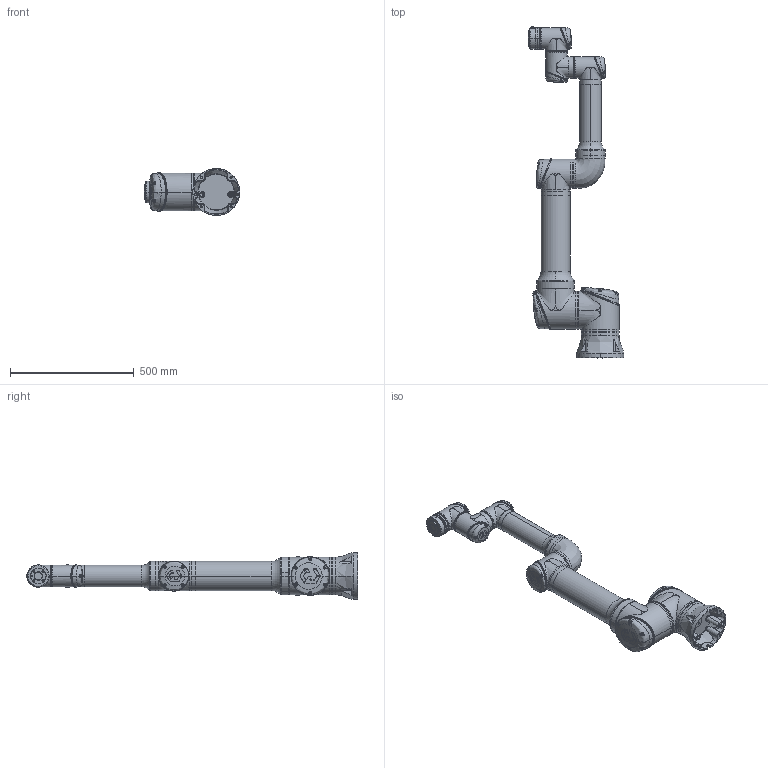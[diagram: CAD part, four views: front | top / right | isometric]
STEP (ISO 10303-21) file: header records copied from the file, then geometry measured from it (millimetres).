
FILE_DESCRIPTION (( 'STEP AP203' ), '1' );
FILE_NAME ('ES_掛极ES616_V1.1.STEP', '2025-07-03T05:39:38', ( '' ), ( '' ), 'SwSTEP 2.0', 'SolidWorks 2017', '' );
FILE_SCHEMA (( 'CONFIG_CONTROL_DESIGN' ));
Length unit declared in the file: millimetre
Products named in the file (8): ES616-Base; ES616-Flange; ES616-Link5; ES616-Link2; ES616-Link3; ES_掛极ES616_V1.1; ES616-Link4; ES616-Link1
Assembly tree (7 placements, depth 2):
  ES_掛极ES616_V1.1
    ES616-Base
    ES616-Link1
    ES616-Link2
    ES616-Link3
    ES616-Link4
    ES616-Link5
    ES616-Flange
Bounding box: 385.68 x 1342.7 x 189.7 mm (x, y, z)
Volume: 20512085.2 mm3; surface area: 1360030.7 mm2
Topology: 80 solids, 101 shells, 5398 faces, 12787 edges, 7591 vertices
Faces by surface type: bspline 2059, plane 1382, cylinder 1045, cone 385, torus 322, sphere 205
Entity records: 439560 total; most frequent: CARTESIAN_POINT 332256, ORIENTED_EDGE 25018, DIRECTION 18377, EDGE_CURVE 12511, AXIS2_PLACEMENT_3D 7773, VERTEX_POINT 7545, EDGE_LOOP 5729, FACE_OUTER_BOUND 5398
